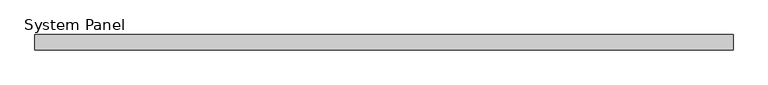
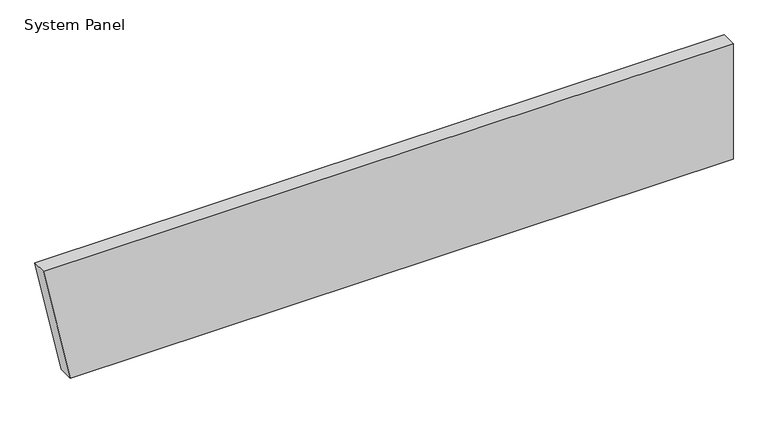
"""IFC4 building model written with IfcOpenShell, lengths in millimetres: plate geometry, System Panel : Equitilt_FlameGuard_150mm_Plain_Surfmist."""

from ifc_helpers import new_model, si_unit, frame, origin, place, context, project, spatial, polyline, outline, extrude, source, transform, mapped, element, save


def system_panel_35f9bc8d(model_context):
    return source(origin(), model_context, "Body", "SweptSolid", [
        extrude(outline(polyline([(0.0, -3125.4358309), (0.0, 3386.3074928), (1200.0, 3386.3074928), (1200.0, -3386.3074928), (0.0, -3125.4358309)])), frame((0.0, -150.0, 0.0), z_axis=(0.0, 1.0, 0.0), x_axis=(0.0, 0.0, 1.0)), (0.0, 0.0, 1.0), 150.0),
    ])


if __name__ == "__main__":
    model = new_model("IFC4")
    model_context = context("Model", 3, world=origin())
    ifc_project = project(units=[si_unit("LENGTHUNIT", "METRE", prefix="MILLI")], contexts=[model_context])
    site = spatial("IfcSite", under=ifc_project)
    building = spatial("IfcBuilding", under=site)
    placement = place(None, origin())
    system_panel_shape = system_panel_35f9bc8d(model_context)
    element("IfcPlate", 1, ObjectType="System Panel : Equitilt_FlameGuard_150mm_Plain_Surfmist", at=placement, inside=building, context=model_context, shape_type="MappedRepresentation", body=[
        mapped(system_panel_shape, transform((0.0, 0.0, 0.0), x_axis=(1.0, 0.0, 0.0), y_axis=(0.0, 1.0, 0.0), z_axis=(0.0, 0.0, 1.0))),
    ])
    save(model, "model.ifc")
